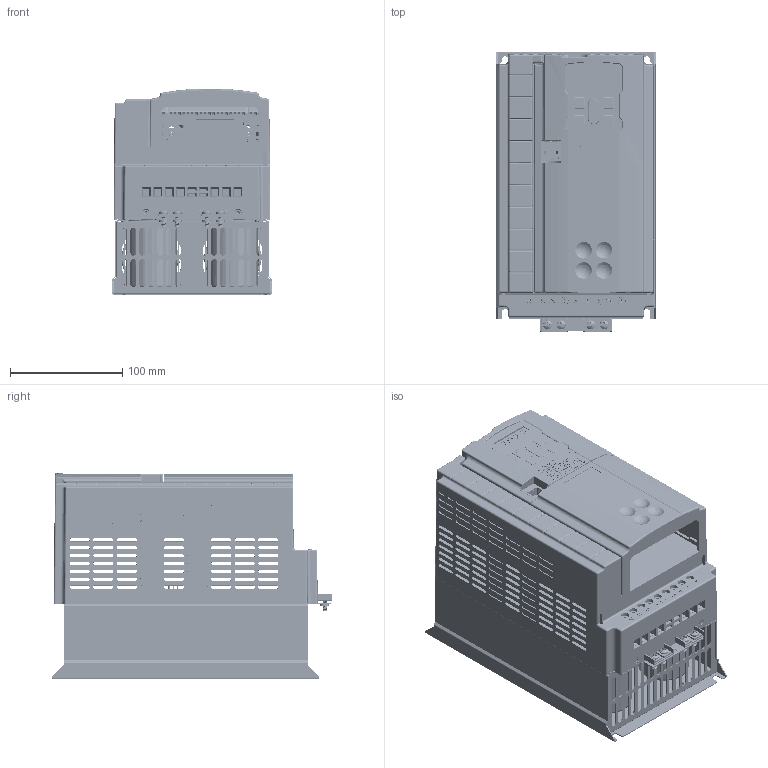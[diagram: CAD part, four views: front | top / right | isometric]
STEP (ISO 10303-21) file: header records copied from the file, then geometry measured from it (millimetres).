
FILE_DESCRIPTION(/* description */ (''),/* implementation_level */ '2;1');
FILE_NAME(/* name */ 'C:\Users\943103\Desktop\DIDI AC20 Frame 03.stp',/* time_stamp */ '2023-09-13T22:09:41+01:00',/* author */ ('943103'),/* organization */ (''),/* preprocessor_version */ 'ST-DEVELOPER v18',/* originating_system */ 'Autodesk Inventor 2020',/* authorisation */ '');
FILE_SCHEMA (('CONFIG_CONTROL_DESIGN'));
Products named in the file (1): Part57
Bounding box: 141.6 x 248.75 x 184.21 mm (x, y, z)
Volume: 1260639.5 mm3; surface area: 1179471.2 mm2
Topology: 1 solids, 1 shells, 23030 faces, 65143 edges, 42150 vertices
Faces by surface type: plane 13886, cylinder 4412, bspline 3055, cone 1238, torus 346, sphere 93
Full cylindrical faces by diameter (mm): 0.4 x17, 0.43 x50, 0.6 x5, 0.8 x12, 0.9 x2, 0.994 x18, 1 x6, 1.15 x24, 1.269 x1, 1.4 x45, 1.45 x12, 1.714 x1, 1.788 x32, 2 x39, 2.18 x12, 2.2 x4, 2.35 x120, 2.459 x6, 2.5 x1, 2.6 x1, 2.8 x12, 2.9 x39, 3 x132, 3.091 x170, 3.5 x7, 3.6 x1, 3.7 x1, 3.766 x2, 4 x229, 4.2 x9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
Entity records: 1461580 total; most frequent: CARTESIAN_POINT 859136, ORIENTED_EDGE 130076, DIRECTION 107667, EDGE_CURVE 65038, LINE 43749, VECTOR 43749, VERTEX_POINT 42150, AXIS2_PLACEMENT_3D 31959
